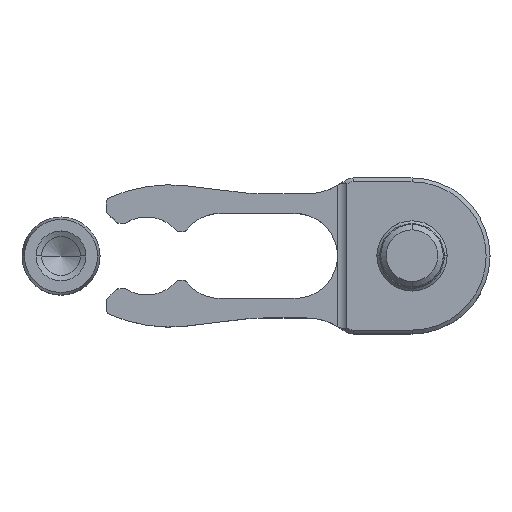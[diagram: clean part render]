
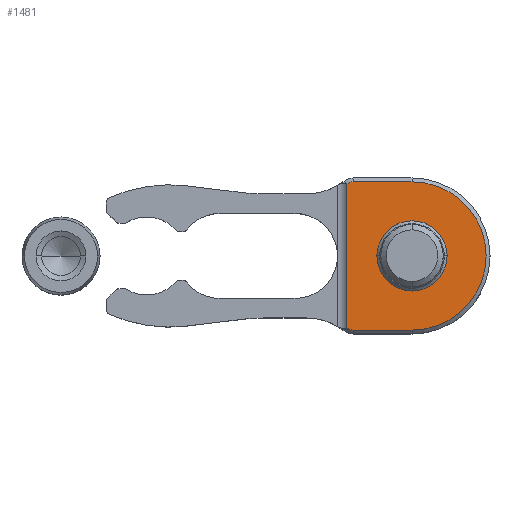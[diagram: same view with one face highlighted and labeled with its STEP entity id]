
A CAD part, top view. The second image highlights one B-rep face of the part: STEP entity #1481.
In plain terms, the highlighted planar face has unit normal (0, 0, 1).
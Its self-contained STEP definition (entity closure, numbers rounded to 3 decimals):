
#262 = VERTEX_POINT ( 'NONE', #3047 ) ;
#604 = FACE_OUTER_BOUND ( 'NONE', #2779, .T. ) ;
#605 = DIRECTION ( 'NONE',  ( 1., 0., 0. ) ) ;
#608 = FACE_BOUND ( 'NONE', #2885, .T. ) ;
#611 = PLANE ( 'NONE',  #2348 ) ;
#616 = CARTESIAN_POINT ( 'NONE',  ( 0., 0., 4. ) ) ;
#625 = DIRECTION ( 'NONE',  ( 0., 0., 1. ) ) ;
#1346 = AXIS2_PLACEMENT_3D ( 'NONE', #4256, #4274, #4232 ) ;
#1354 = VECTOR ( 'NONE', #4246, 1000. ) ;
#1430 = CIRCLE ( 'NONE', #1346, 1.5 ) ;
#1455 = VECTOR ( 'NONE', #4156, 1000. ) ;
#1464 = AXIS2_PLACEMENT_3D ( 'NONE', #4138, #4181, #4140 ) ;
#1469 = CIRCLE ( 'NONE', #1464, 4.5 ) ;
#1481 = ADVANCED_FACE ( 'NONE', ( #608, #604 ), #611, .T. ) ;
#1609 = EDGE_CURVE ( 'NONE', #2864, #2865, #2500, .T. ) ;
#1710 = VERTEX_POINT ( 'NONE', #4320 ) ;
#1717 = ORIENTED_EDGE ( 'NONE', *, *, #2224, .F. ) ;
#1725 = ORIENTED_EDGE ( 'NONE', *, *, #1609, .T. ) ;
#1728 = ORIENTED_EDGE ( 'NONE', *, *, #2714, .T. ) ;
#1731 = ORIENTED_EDGE ( 'NONE', *, *, #2747, .T. ) ;
#1732 = ORIENTED_EDGE ( 'NONE', *, *, #2711, .T. ) ;
#1740 = ORIENTED_EDGE ( 'NONE', *, *, #2712, .T. ) ;
#1746 = ORIENTED_EDGE ( 'NONE', *, *, #2744, .F. ) ;
#1754 = ORIENTED_EDGE ( 'NONE', *, *, #2715, .F. ) ;
#2224 = EDGE_CURVE ( 'NONE', #2799, #262, #2470, .T. ) ;
#2348 = AXIS2_PLACEMENT_3D ( 'NONE', #616, #625, #605 ) ;
#2470 = CIRCLE ( 'NONE', #2476, 9.5 ) ;
#2476 = AXIS2_PLACEMENT_3D ( 'NONE', #3930, #3931, #3901 ) ;
#2500 = CIRCLE ( 'NONE', #2517, 4.5 ) ;
#2517 = AXIS2_PLACEMENT_3D ( 'NONE', #3556, #3559, #3561 ) ;
#2711 = EDGE_CURVE ( 'NONE', #2894, #2807, #4109, .T. ) ;
#2712 = EDGE_CURVE ( 'NONE', #2807, #2769, #4702, .T. ) ;
#2714 = EDGE_CURVE ( 'NONE', #2865, #2864, #1469, .T. ) ;
#2715 = EDGE_CURVE ( 'NONE', #1710, #2799, #4146, .T. ) ;
#2744 = EDGE_CURVE ( 'NONE', #262, #2769, #4244, .T. ) ;
#2747 = EDGE_CURVE ( 'NONE', #1710, #2894, #1430, .T. ) ;
#2769 = VERTEX_POINT ( 'NONE', #4590 ) ;
#2779 = EDGE_LOOP ( 'NONE', ( #1754, #1731, #1732, #1740, #1746, #1717 ) ) ;
#2799 = VERTEX_POINT ( 'NONE', #4597 ) ;
#2807 = VERTEX_POINT ( 'NONE', #4594 ) ;
#2864 = VERTEX_POINT ( 'NONE', #4417 ) ;
#2865 = VERTEX_POINT ( 'NONE', #4373 ) ;
#2885 = EDGE_LOOP ( 'NONE', ( #1728, #1725 ) ) ;
#2894 = VERTEX_POINT ( 'NONE', #4415 ) ;
#3047 = CARTESIAN_POINT ( 'NONE',  ( 0., -9.5, 4. ) ) ;
#3556 = CARTESIAN_POINT ( 'NONE',  ( 0., 0., 4. ) ) ;
#3559 = DIRECTION ( 'NONE',  ( 0., 0., -1. ) ) ;
#3561 = DIRECTION ( 'NONE',  ( -1., 0., 0. ) ) ;
#3901 = DIRECTION ( 'NONE',  ( 0., 1., 0. ) ) ;
#3930 = CARTESIAN_POINT ( 'NONE',  ( 0., 0., 4. ) ) ;
#3931 = DIRECTION ( 'NONE',  ( 0., 0., -1. ) ) ;
#4109 = LINE ( 'NONE', #4153, #4690 ) ;
#4137 = DIRECTION ( 'NONE',  ( 0., 0., 1. ) ) ;
#4138 = CARTESIAN_POINT ( 'NONE',  ( 0., 0., 4. ) ) ;
#4140 = DIRECTION ( 'NONE',  ( -1., 0., 0. ) ) ;
#4146 = LINE ( 'NONE', #4152, #1455 ) ;
#4149 = CARTESIAN_POINT ( 'NONE',  ( -7.5, -8., 4. ) ) ;
#4152 = CARTESIAN_POINT ( 'NONE',  ( 0., 9.5, 4. ) ) ;
#4153 = CARTESIAN_POINT ( 'NONE',  ( -8.382, 0., 4. ) ) ;
#4154 = DIRECTION ( 'NONE',  ( -1., 0., 0. ) ) ;
#4156 = DIRECTION ( 'NONE',  ( 1., 0., 0. ) ) ;
#4157 = DIRECTION ( 'NONE',  ( 0., -1., 0. ) ) ;
#4181 = DIRECTION ( 'NONE',  ( 0., 0., -1. ) ) ;
#4232 = DIRECTION ( 'NONE',  ( -1., 0., 0. ) ) ;
#4240 = CARTESIAN_POINT ( 'NONE',  ( 0., -9.5, 4. ) ) ;
#4244 = LINE ( 'NONE', #4240, #1354 ) ;
#4246 = DIRECTION ( 'NONE',  ( -1., 0., 0. ) ) ;
#4256 = CARTESIAN_POINT ( 'NONE',  ( -7.5, 8., 4. ) ) ;
#4274 = DIRECTION ( 'NONE',  ( 0., 0., 1. ) ) ;
#4320 = CARTESIAN_POINT ( 'NONE',  ( -7.5, 9.5, 4. ) ) ;
#4373 = CARTESIAN_POINT ( 'NONE',  ( -4.5, 0., 4. ) ) ;
#4415 = CARTESIAN_POINT ( 'NONE',  ( -8.382, 9.213, 4. ) ) ;
#4417 = CARTESIAN_POINT ( 'NONE',  ( 4.5, 0., 4. ) ) ;
#4578 = AXIS2_PLACEMENT_3D ( 'NONE', #4149, #4137, #4154 ) ;
#4590 = CARTESIAN_POINT ( 'NONE',  ( -7.5, -9.5, 4. ) ) ;
#4594 = CARTESIAN_POINT ( 'NONE',  ( -8.382, -9.213, 4. ) ) ;
#4597 = CARTESIAN_POINT ( 'NONE',  ( 0., 9.5, 4. ) ) ;
#4690 = VECTOR ( 'NONE', #4157, 1000. ) ;
#4702 = CIRCLE ( 'NONE', #4578, 1.5 ) ;
